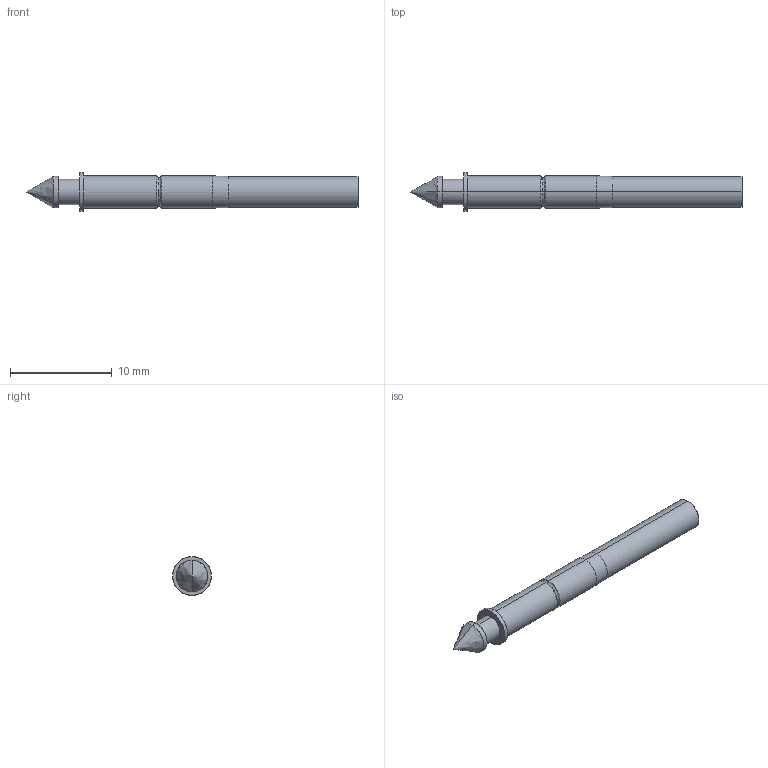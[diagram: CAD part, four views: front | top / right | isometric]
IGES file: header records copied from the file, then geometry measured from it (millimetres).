
Start section: SolidWorks IGES file using analytic representation for surfaces
Global section: file name: O:\PYLON\IGES FILES\P2550\P2550-0 REC'D.IGS; native system: SolidWorks 2015; preprocessor: SolidWorks 2015; author: kgolden; date: 171020.110235; units: inch
Bounding box: 32.66 x 3.81 x 3.81 mm (x, y, z)
Surface area: 389.6 mm2 (no closed solid volume)
Topology: 0 solids, 0 shells, 30 faces, 416 edges, 412 vertices
Faces by surface type: revolution 18, bspline 12
